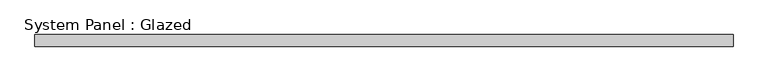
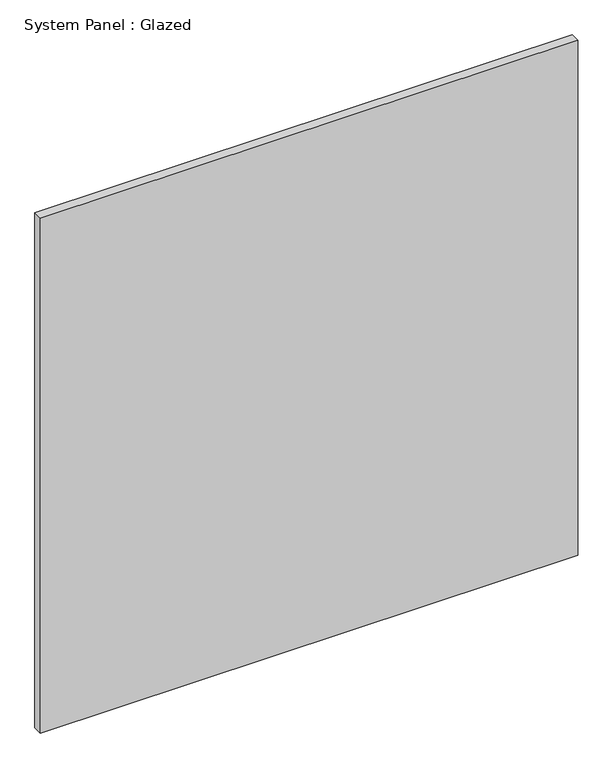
"""IFC4 building model written with IfcOpenShell, lengths in millimetres: plate geometry, System Panel : Glazed."""

import ifcopenshell
import ifcopenshell.guid

model = None  # the IFC model being written
_history = None  # IfcOwnerHistory: only IFC2X3 demands one
_inside = {}  # id of a spatial element -> (the spatial element, [elements in it])
_under = {}  # id of a project, library or spatial element -> (it, [spatial elements below it])
_declared = {}  # id of a project -> (the project, [libraries it declares])
_typed = {}  # id of a type object -> (the type object, [elements of that type])
_made_of = {}  # id of a material, layer set ... -> (it, [elements and type objects made of it])


def new_model(schema):
    """Start an empty IFC model of exactly this schema.

    Asked for "IFC4X3", IfcOpenShell would pick the latest addendum, in which some entities
    have other attributes; the version numbers below select the first issue.
    IFC2X3 requires an IfcOwnerHistory on every rooted entity: one is made here for all.
    """
    global model, _history
    if schema == "IFC4X3":
        model = ifcopenshell.file(schema_version=(4, 3, 0, 0))
    else:
        model = ifcopenshell.file(schema=schema)
    _inside.clear()
    _under.clear()
    _declared.clear()
    _typed.clear()
    _made_of.clear()
    _history = None
    if model.schema == "IFC2X3":
        org = make("IfcOrganization", Name="unknown")
        user = make(
            "IfcPersonAndOrganization",
            ThePerson=make("IfcPerson", FamilyName="unknown"),
            TheOrganization=org,
        )
        app = make(
            "IfcApplication",
            ApplicationDeveloper=org,
            Version="unknown",
            ApplicationFullName="unknown",
            ApplicationIdentifier="unknown",
        )
        _history = make(
            "IfcOwnerHistory",
            OwningUser=user,
            OwningApplication=app,
            ChangeAction="ADDED",
            CreationDate=0,
        )
    return model


def make(cls, **values):
    """One entity of the class cls with the attributes given. An attribute that is None is left unset."""
    return model.create_entity(
        cls, **{name: value for name, value in values.items() if value is not None}
    )


def rooted(cls, **values):
    """An entity with a GlobalId (a new one), such as an element, a storey or a relation."""
    return make(cls, GlobalId=ifcopenshell.guid.new(), OwnerHistory=_history, **values)


def si_unit(unit_type, name, prefix=None):
    """IfcSIUnit, for example si_unit("LENGTHUNIT", "METRE", prefix="MILLI")."""
    return make("IfcSIUnit", UnitType=unit_type, Prefix=prefix, Name=name)


def assignment(units):
    """IfcUnitAssignment: the units of a project."""
    return None if units is None else make("IfcUnitAssignment", Units=units)


def point(xyz):
    """IfcCartesianPoint."""
    return None if xyz is None else make("IfcCartesianPoint", Coordinates=xyz)


def direction(xyz):
    """IfcDirection."""
    return None if xyz is None else make("IfcDirection", DirectionRatios=xyz)


def frame(location, z_axis=None, x_axis=None):
    """IfcAxis2Placement3D, a coordinate frame: its origin and axes. An axis left out is left unset."""
    return make(
        "IfcAxis2Placement3D",
        Location=point(location),
        Axis=direction(z_axis),
        RefDirection=direction(x_axis),
    )


def origin():
    """The frame at (0, 0, 0) with its axes left unset."""
    return frame((0.0, 0.0, 0.0))


def origin_with_axes():
    """The frame at (0, 0, 0) with the z axis (0, 0, 1) and the x axis (1, 0, 0) written out."""
    return frame((0.0, 0.0, 0.0), z_axis=(0.0, 0.0, 1.0), x_axis=(1.0, 0.0, 0.0))


def place(relative_to, where):
    """IfcLocalPlacement: puts the frame where relative to a parent placement (None: the world)."""
    return make(
        "IfcLocalPlacement", PlacementRelTo=relative_to, RelativePlacement=where
    )


def context(
    kind, dimensions, precision=None, world=None, true_north=None, identifier=None
):
    """IfcGeometricRepresentationContext, for example the 3D "Model" context."""
    return make(
        "IfcGeometricRepresentationContext",
        ContextIdentifier=identifier,
        ContextType=kind,
        CoordinateSpaceDimension=dimensions,
        Precision=precision,
        WorldCoordinateSystem=world,
        TrueNorth=true_north,
    )


def project(units=None, contexts=None):
    """IfcProject with its units and contexts."""
    return rooted(
        "IfcProject",
        Name="project",
        RepresentationContexts=contexts,
        UnitsInContext=assignment(units),
    )


def spatial(cls, under=None, at=None, **own):
    """A site, building, storey or space (cls), placed at a placement, below another one or the project."""
    s = rooted(cls, ObjectPlacement=at, **own)
    if under is not None:
        _under.setdefault(under.id(), (under, []))[1].append(s)
    return s


def polyline(points):
    """IfcPolyline through the points."""
    return make("IfcPolyline", Points=[point(p) for p in points])


def outline(outer, holes=None, kind="AREA"):
    """IfcArbitraryClosedProfileDef: a profile drawn as a closed curve; with holes, ...WithVoids."""
    if holes is None:
        return make("IfcArbitraryClosedProfileDef", ProfileType=kind, OuterCurve=outer)
    return make(
        "IfcArbitraryProfileDefWithVoids",
        ProfileType=kind,
        OuterCurve=outer,
        InnerCurves=holes,
    )


def extrude(swept, where, along, depth):
    """IfcExtrudedAreaSolid: the profile swept, set in the frame where, extruded along a direction by depth."""
    return make(
        "IfcExtrudedAreaSolid",
        SweptArea=swept,
        Position=where,
        ExtrudedDirection=direction(along),
        Depth=depth,
    )


def shape(context_of_items, identifier, shape_type, items):
    """IfcShapeRepresentation: the items that make up one representation, for example the "Body"."""
    return make(
        "IfcShapeRepresentation",
        ContextOfItems=context_of_items,
        RepresentationIdentifier=identifier,
        RepresentationType=shape_type,
        Items=items,
    )


def source(mapping_origin, context_of_items, identifier, shape_type, items):
    """IfcRepresentationMap: a shape defined once, which mapped items show again and again."""
    return make(
        "IfcRepresentationMap",
        MappingOrigin=mapping_origin,
        MappedRepresentation=shape(context_of_items, identifier, shape_type, items),
    )


def transform(
    local_origin,
    x_axis=None,
    y_axis=None,
    z_axis=None,
    scale=None,
    scale2=None,
    scale3=None,
    uniform=True,
):
    """IfcCartesianTransformationOperator3D, or its non-uniform kind. x_axis, y_axis, z_axis: its Axis1, 2, 3."""
    if uniform:
        return make(
            "IfcCartesianTransformationOperator3D",
            Axis1=direction(x_axis),
            Axis2=direction(y_axis),
            LocalOrigin=point(local_origin),
            Scale=scale,
            Axis3=direction(z_axis),
        )
    return make(
        "IfcCartesianTransformationOperator3DnonUniform",
        Axis1=direction(x_axis),
        Axis2=direction(y_axis),
        LocalOrigin=point(local_origin),
        Scale=scale,
        Axis3=direction(z_axis),
        Scale2=scale2,
        Scale3=scale3,
    )


def mapped(mapping_source, mapping_target):
    """IfcMappedItem: shows the shape of a source again, moved by a transform."""
    return make(
        "IfcMappedItem", MappingSource=mapping_source, MappingTarget=mapping_target
    )


def made_of(thing, what):
    """Note that an element or type object is made of a material, layer set ...; save() writes the relation."""
    if what is not None:
        _made_of.setdefault(what.id(), (what, []))[1].append(thing)
    return thing


def element(
    cls,
    number,
    at=None,
    inside=None,
    cuts=None,
    type_object=None,
    material=None,
    context=None,
    identifier="Body",
    shape_type=None,
    held_by="IfcProductDefinitionShape",
    body=None,
    shapes=None,
    **own,
):
    """One element of the class cls, such as IfcWall. Its Tag is "e" and its number.

    at: its placement. inside: the storey or other place that contains it. cuts: it is an
    opening in that element (IfcRelVoidsElement). A single representation is given by context,
    identifier, shape_type and body (its items); several are given by shapes. held_by: the class
    of the entity that holds the representations. save() writes the other relations.
    """
    e = rooted(cls, Tag="e%d" % number, ObjectPlacement=at, **own)
    if body is not None:
        shapes = [shape(context, identifier, shape_type, body)]
    if shapes is not None:
        e.Representation = make(held_by, Representations=shapes)
    if inside is not None:
        _inside.setdefault(inside.id(), (inside, []))[1].append(e)
    if cuts is not None:
        rooted(
            "IfcRelVoidsElement", RelatingBuildingElement=cuts, RelatedOpeningElement=e
        )
    if type_object is not None:
        _typed.setdefault(type_object.id(), (type_object, []))[1].append(e)
    return made_of(e, material)


def aggregate(whole, parts):
    """IfcRelAggregates: a whole, such as a stair, and the parts it consists of."""
    return rooted("IfcRelAggregates", RelatingObject=whole, RelatedObjects=parts)


def save(model, path):
    """Write the relations noted so far, then the file.

    IfcRelAggregates (storeys below a building ...), IfcRelContainedInSpatialStructure (elements
    in a storey), IfcRelDefinesByType, IfcRelAssociatesMaterial and IfcRelDeclares: one each for
    every whole, place, type object, material and project.
    """
    for whole, parts in _under.values():
        aggregate(whole, parts)
    for where, things in _inside.values():
        rooted(
            "IfcRelContainedInSpatialStructure",
            RelatedElements=things,
            RelatingStructure=where,
        )
    for kind, things in _typed.values():
        rooted("IfcRelDefinesByType", RelatedObjects=things, RelatingType=kind)
    for what, things in _made_of.values():
        rooted("IfcRelAssociatesMaterial", RelatedObjects=things, RelatingMaterial=what)
    for by, libraries in _declared.values():
        rooted("IfcRelDeclares", RelatingContext=by, RelatedDefinitions=libraries)
    model.write(path)


def system_panel_glazed_d4009c89(model_context):
    return source(origin(), model_context, "Body", "SweptSolid", [
        extrude(outline(polyline([(733.425, 19.05), (-733.425, 19.05), (-733.425, 44.45), (733.425, 44.45), (733.425, 19.05)])), origin_with_axes(), (0.0, 0.0, 1.0), 1485.9),
    ])


if __name__ == "__main__":
    model = new_model("IFC4")
    model_context = context("Model", 3, world=origin())
    ifc_project = project(units=[si_unit("LENGTHUNIT", "METRE", prefix="MILLI")], contexts=[model_context])
    site = spatial("IfcSite", under=ifc_project)
    building = spatial("IfcBuilding", under=site)
    placement = place(None, origin())
    system_panel_glazed_shape = system_panel_glazed_d4009c89(model_context)
    element("IfcPlate", 1, ObjectType="System Panel : Glazed", at=placement, inside=building, context=model_context, shape_type="MappedRepresentation", body=[
        mapped(system_panel_glazed_shape, transform((0.0, 0.0, 0.0), x_axis=(1.0, 0.0, 0.0), y_axis=(0.0, 1.0, 0.0), z_axis=(0.0, 0.0, 1.0))),
    ])
    save(model, "model.ifc")
